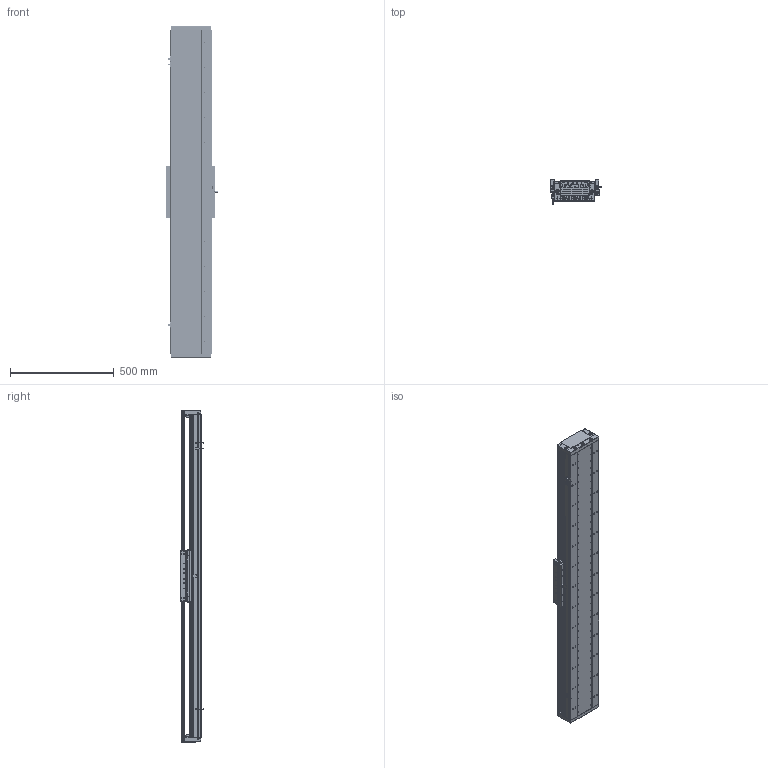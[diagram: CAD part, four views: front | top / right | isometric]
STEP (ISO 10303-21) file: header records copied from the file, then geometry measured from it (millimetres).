
FILE_DESCRIPTION (( 'STEP AP203' ), '1' );
FILE_NAME ('DA-C195-C3-T1260-C010-0.2 眻盄萇儂.STEP', '2025-08-15T01:39:18', ( '' ), ( '' ), 'SwSTEP 2.0', 'SolidWorks 2019', '' );
FILE_SCHEMA (( 'CONFIG_CONTROL_DESIGN' ));
Length unit declared in the file: millimetre
Products named in the file (12): PM-T45ㄗ侂狟ㄘ; DA195-DG-H-00  端盖（压铸镂空版）; MS200 棠掑喜S315-T240; IU-CU195-L 菁釱絳寢; 葩璃 DA95-GT-T-00; 66156-0001-003-00 裔啣; LMT黍杅芛; DA-C195-C3-T1260-C010-0.2 眻盄萇儂; DA95-HXJ-00 遣喳砎蝶; DA165-GYP-00 光电感应片(默认); CU195-C3賑輸-俋楷; IU-CU195-L-00 菁釱(L1560)
Assembly tree (20 placements, depth 3):
  DA-C195-C3-T1260-C010-0.2 眻盄萇儂
    IU-CU195-L 菁釱絳寢
      IU-CU195-L-00 菁釱(L1560)
      葩璃 DA95-GT-T-00  x4
    LMT黍杅芛
    MS200 棠掑喜S315-T240
    PM-T45ㄗ侂狟ㄘ  x3
    DA165-GYP-00 光电感应片(默认)
    DA195-DG-H-00  端盖（压铸镂空版）  x2
    DA95-HXJ-00 遣喳砎蝶  x4
    66156-0001-003-00 裔啣
    CU195-C3賑輸-俋楷
Bounding box: 248 x 115.6 x 1600 mm (x, y, z)
Volume: 11119357.1 mm3; surface area: 3161795 mm2
Topology: 78 solids, 118 shells, 5355 faces, 13960 edges, 8531 vertices
Faces by surface type: cylinder 2416, plane 1605, bspline 710, cone 544, torus 44, sphere 36
Entity records: 152343 total; most frequent: CARTESIAN_POINT 48045, ORIENTED_EDGE 22006, DIRECTION 20814, EDGE_CURVE 11003, AXIS2_PLACEMENT_3D 7755, VERTEX_POINT 6961, VECTOR 5304, LINE 5304
